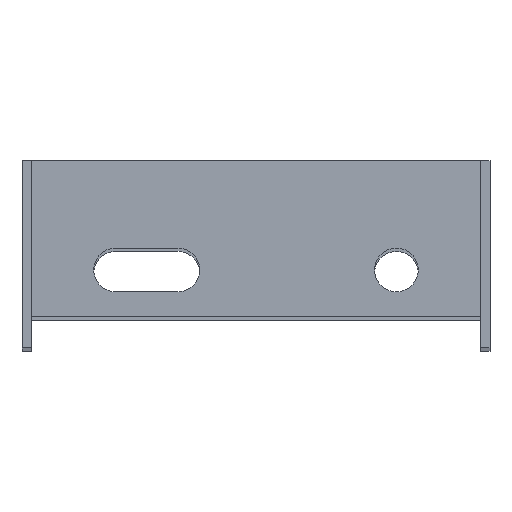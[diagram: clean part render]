
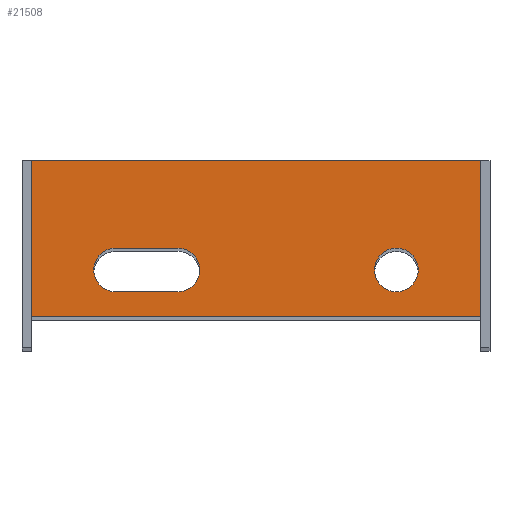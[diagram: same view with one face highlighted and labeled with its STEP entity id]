
A CAD part, top view. The second image highlights one B-rep face of the part: STEP entity #21508.
In plain terms, the highlighted planar face has unit normal (0, 0, 1).
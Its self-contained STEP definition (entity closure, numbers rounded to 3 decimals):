
#200 = CARTESIAN_POINT ( 'NONE',  ( 0., 0., 0. ) ) ;
#280 = DIRECTION ( 'NONE',  ( -1., 0., 0. ) ) ;
#613 = VERTEX_POINT ( 'NONE', #2004 ) ;
#736 = DIRECTION ( 'NONE',  ( 1., 0., 0. ) ) ;
#898 = AXIS2_PLACEMENT_3D ( 'NONE', #10147, #20127, #280 ) ;
#1843 = EDGE_LOOP ( 'NONE', ( #38288, #15144, #21448, #10999 ) ) ;
#2004 = CARTESIAN_POINT ( 'NONE',  ( 144., 50., 0. ) ) ;
#2922 = EDGE_CURVE ( 'NONE', #17147, #25778, #16808, .T. ) ;
#3295 = VECTOR ( 'NONE', #16298, 1000. ) ;
#3508 = CARTESIAN_POINT ( 'NONE',  ( 47., 8., 0. ) ) ;
#4156 = VERTEX_POINT ( 'NONE', #6785 ) ;
#5022 = EDGE_CURVE ( 'NONE', #613, #33517, #8845, .T. ) ;
#5140 = EDGE_LOOP ( 'NONE', ( #10895, #8576, #22239, #29955 ) ) ;
#5520 = CARTESIAN_POINT ( 'NONE',  ( 117., 15., 0. ) ) ;
#6755 = VERTEX_POINT ( 'NONE', #200 ) ;
#6759 = EDGE_CURVE ( 'NONE', #25778, #34340, #9275, .T. ) ;
#6785 = CARTESIAN_POINT ( 'NONE',  ( 124., 15., 0. ) ) ;
#7278 = CARTESIAN_POINT ( 'NONE',  ( 0., 0., 0. ) ) ;
#7386 = EDGE_CURVE ( 'NONE', #6755, #19148, #35005, .T. ) ;
#8408 = EDGE_CURVE ( 'NONE', #19148, #613, #29688, .T. ) ;
#8481 = LINE ( 'NONE', #34038, #42542 ) ;
#8551 = CIRCLE ( 'NONE', #38444, 7. ) ;
#8576 = ORIENTED_EDGE ( 'NONE', *, *, #7386, .T. ) ;
#8845 = LINE ( 'NONE', #26317, #15581 ) ;
#8869 = DIRECTION ( 'NONE',  ( 1., 0., 0. ) ) ;
#9247 = VERTEX_POINT ( 'NONE', #22973 ) ;
#9275 = LINE ( 'NONE', #3508, #42281 ) ;
#10147 = CARTESIAN_POINT ( 'NONE',  ( 0., 0., 0. ) ) ;
#10895 = ORIENTED_EDGE ( 'NONE', *, *, #33689, .T. ) ;
#10999 = ORIENTED_EDGE ( 'NONE', *, *, #2922, .F. ) ;
#12977 = CARTESIAN_POINT ( 'NONE',  ( 144., 0., 0. ) ) ;
#13542 = DIRECTION ( 'NONE',  ( 1., 0., 0. ) ) ;
#14428 = EDGE_CURVE ( 'NONE', #34340, #9247, #37985, .T. ) ;
#14947 = DIRECTION ( 'NONE',  ( 0., 0., 1. ) ) ;
#15144 = ORIENTED_EDGE ( 'NONE', *, *, #14428, .F. ) ;
#15329 = EDGE_LOOP ( 'NONE', ( #38781 ) ) ;
#15581 = VECTOR ( 'NONE', #29642, 1000. ) ;
#16298 = DIRECTION ( 'NONE',  ( 0., 1., 0. ) ) ;
#16340 = DIRECTION ( 'NONE',  ( 0., 0., 1. ) ) ;
#16398 = AXIS2_PLACEMENT_3D ( 'NONE', #34684, #14947, #37965 ) ;
#16786 = PLANE ( 'NONE',  #898 ) ;
#16808 = CIRCLE ( 'NONE', #16398, 7. ) ;
#17147 = VERTEX_POINT ( 'NONE', #41027 ) ;
#17466 = VECTOR ( 'NONE', #736, 1000. ) ;
#19148 = VERTEX_POINT ( 'NONE', #20161 ) ;
#20127 = DIRECTION ( 'NONE',  ( 0., 0., -1. ) ) ;
#20161 = CARTESIAN_POINT ( 'NONE',  ( 144., 0., 0. ) ) ;
#20418 = FACE_OUTER_BOUND ( 'NONE', #5140, .T. ) ;
#21448 = ORIENTED_EDGE ( 'NONE', *, *, #6759, .F. ) ;
#21508 = ADVANCED_FACE ( 'NONE', ( #29173, #37895, #20418 ), #16786, .F. ) ;
#22239 = ORIENTED_EDGE ( 'NONE', *, *, #8408, .T. ) ;
#22973 = CARTESIAN_POINT ( 'NONE',  ( 47., 22., 0. ) ) ;
#23258 = CARTESIAN_POINT ( 'NONE',  ( 0., 50., 0. ) ) ;
#25778 = VERTEX_POINT ( 'NONE', #37883 ) ;
#26317 = CARTESIAN_POINT ( 'NONE',  ( 0., 50., 0. ) ) ;
#27050 = EDGE_CURVE ( 'NONE', #9247, #17147, #29273, .T. ) ;
#27543 = DIRECTION ( 'NONE',  ( 0., -1., 0. ) ) ;
#28126 = AXIS2_PLACEMENT_3D ( 'NONE', #36076, #16340, #39370 ) ;
#28222 = VECTOR ( 'NONE', #41244, 1000. ) ;
#28637 = DIRECTION ( 'NONE',  ( 0., 0., 1. ) ) ;
#29173 = FACE_BOUND ( 'NONE', #1843, .T. ) ;
#29273 = LINE ( 'NONE', #37918, #28222 ) ;
#29642 = DIRECTION ( 'NONE',  ( -1., 0., 0. ) ) ;
#29688 = LINE ( 'NONE', #12977, #3295 ) ;
#29955 = ORIENTED_EDGE ( 'NONE', *, *, #5022, .T. ) ;
#33517 = VERTEX_POINT ( 'NONE', #23258 ) ;
#33689 = EDGE_CURVE ( 'NONE', #33517, #6755, #8481, .T. ) ;
#34038 = CARTESIAN_POINT ( 'NONE',  ( 0., 0., 0. ) ) ;
#34340 = VERTEX_POINT ( 'NONE', #37568 ) ;
#34684 = CARTESIAN_POINT ( 'NONE',  ( 27., 15., 0. ) ) ;
#35005 = LINE ( 'NONE', #7278, #17466 ) ;
#36076 = CARTESIAN_POINT ( 'NONE',  ( 47., 15., 0. ) ) ;
#37568 = CARTESIAN_POINT ( 'NONE',  ( 47., 8., 0. ) ) ;
#37883 = CARTESIAN_POINT ( 'NONE',  ( 27., 8., 0. ) ) ;
#37895 = FACE_BOUND ( 'NONE', #15329, .T. ) ;
#37918 = CARTESIAN_POINT ( 'NONE',  ( 47., 22., 0. ) ) ;
#37965 = DIRECTION ( 'NONE',  ( 1., 0., 0. ) ) ;
#37985 = CIRCLE ( 'NONE', #28126, 7. ) ;
#38288 = ORIENTED_EDGE ( 'NONE', *, *, #27050, .F. ) ;
#38444 = AXIS2_PLACEMENT_3D ( 'NONE', #5520, #28637, #8869 ) ;
#38781 = ORIENTED_EDGE ( 'NONE', *, *, #40224, .F. ) ;
#39370 = DIRECTION ( 'NONE',  ( 1., 0., 0. ) ) ;
#40224 = EDGE_CURVE ( 'NONE', #4156, #4156, #8551, .T. ) ;
#41027 = CARTESIAN_POINT ( 'NONE',  ( 27., 22., 0. ) ) ;
#41244 = DIRECTION ( 'NONE',  ( -1., 0., 0. ) ) ;
#42281 = VECTOR ( 'NONE', #13542, 1000. ) ;
#42542 = VECTOR ( 'NONE', #27543, 1000. ) ;
